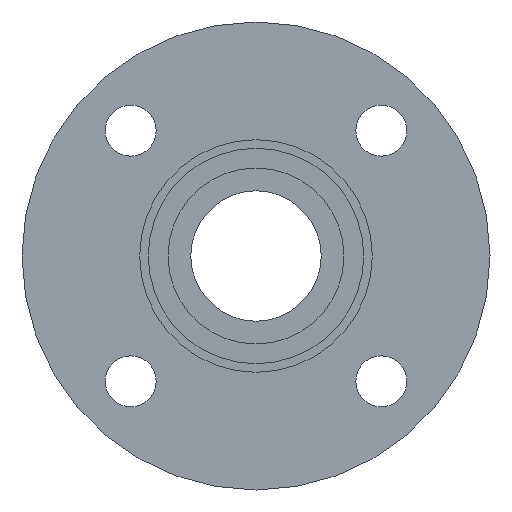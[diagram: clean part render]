
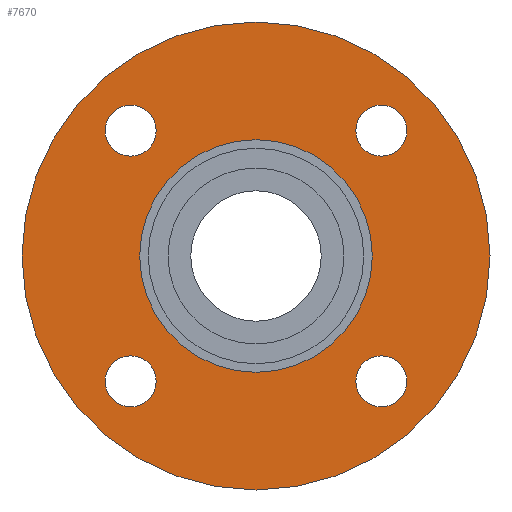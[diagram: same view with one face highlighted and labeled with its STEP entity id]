
A CAD part, left-side view. The second image highlights one B-rep face of the part: STEP entity #7670.
In plain terms, the highlighted planar face has unit normal (-1, 0, 0).
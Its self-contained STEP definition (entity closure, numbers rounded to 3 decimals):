
#7670=ADVANCED_FACE('',(#13848,#13850,#13852,#13854,#13856,#13858),#13860,.T.);
#13848=FACE_BOUND('',#13849,.T.);
#13849=EDGE_LOOP('',(#19048,#19049));
#13850=FACE_BOUND('',#13851,.T.);
#13851=EDGE_LOOP('',(#19050));
#13852=FACE_BOUND('',#13853,.T.);
#13853=EDGE_LOOP('',(#19051));
#13854=FACE_BOUND('',#13855,.T.);
#13855=EDGE_LOOP('',(#19052));
#13856=FACE_BOUND('',#13857,.T.);
#13857=EDGE_LOOP('',(#19053,#19054));
#13858=FACE_BOUND('',#13859,.T.);
#13859=EDGE_LOOP('',(#19055));
#13860=PLANE('',#13861);
#13861=AXIS2_PLACEMENT_3D('',#13862,#13863,#13864);
#13862=CARTESIAN_POINT('',(15436.544,2909.792,0.));
#13863=DIRECTION('',(-1.,0.,0.));
#13864=DIRECTION('',(0.,0.,1.));
#19048=ORIENTED_EDGE('',*,*,#21643,.F.);
#19049=ORIENTED_EDGE('',*,*,#21644,.F.);
#19050=ORIENTED_EDGE('',*,*,#21628,.T.);
#19051=ORIENTED_EDGE('',*,*,#21634,.T.);
#19052=ORIENTED_EDGE('',*,*,#21638,.T.);
#19053=ORIENTED_EDGE('',*,*,#21640,.T.);
#19054=ORIENTED_EDGE('',*,*,#21639,.T.);
#19055=ORIENTED_EDGE('',*,*,#21624,.T.);
#21624=EDGE_CURVE('',#25768,#25768,#25769,.T.);
#21628=EDGE_CURVE('',#25776,#25776,#25777,.T.);
#21634=EDGE_CURVE('',#25788,#25788,#25789,.T.);
#21638=EDGE_CURVE('',#25796,#25796,#25797,.T.);
#21639=EDGE_CURVE('',#25798,#25799,#25800,.T.);
#21640=EDGE_CURVE('',#25799,#25798,#25801,.T.);
#21643=EDGE_CURVE('',#25806,#25807,#25808,.T.);
#21644=EDGE_CURVE('',#25807,#25806,#25809,.T.);
#25768=VERTEX_POINT('',#34870);
#25769=CIRCLE('',#34871,9.);
#25776=VERTEX_POINT('',#34890);
#25777=CIRCLE('',#34891,9.);
#25788=VERTEX_POINT('',#34920);
#25789=CIRCLE('',#34921,9.);
#25796=VERTEX_POINT('',#34940);
#25797=CIRCLE('',#34941,9.);
#25798=VERTEX_POINT('',#34945);
#25799=VERTEX_POINT('',#34946);
#25800=CIRCLE('',#34947,41.);
#25801=CIRCLE('',#34951,41.);
#25806=VERTEX_POINT('',#34965);
#25807=VERTEX_POINT('',#34966);
#25808=CIRCLE('',#34967,82.5);
#25809=CIRCLE('',#34971,82.5);
#34870=CARTESIAN_POINT('',(15436.544,2862.486,-44.194));
#34871=AXIS2_PLACEMENT_3D('',#34872,#34873,#34874);
#34872=CARTESIAN_POINT('',(15436.544,2871.486,-44.194));
#34873=DIRECTION('',(1.,0.,0.));
#34874=DIRECTION('',(0.,-1.,0.));
#34890=CARTESIAN_POINT('',(15436.544,2774.097,-44.194));
#34891=AXIS2_PLACEMENT_3D('',#34892,#34893,#34894);
#34892=CARTESIAN_POINT('',(15436.544,2783.097,-44.194));
#34893=DIRECTION('',(1.,0.,0.));
#34894=DIRECTION('',(0.,-1.,0.));
#34920=CARTESIAN_POINT('',(15436.544,2774.097,44.194));
#34921=AXIS2_PLACEMENT_3D('',#34922,#34923,#34924);
#34922=CARTESIAN_POINT('',(15436.544,2783.097,44.194));
#34923=DIRECTION('',(1.,0.,0.));
#34924=DIRECTION('',(0.,-1.,0.));
#34940=CARTESIAN_POINT('',(15436.544,2862.486,44.194));
#34941=AXIS2_PLACEMENT_3D('',#34942,#34943,#34944);
#34942=CARTESIAN_POINT('',(15436.544,2871.486,44.194));
#34943=DIRECTION('',(1.,0.,0.));
#34944=DIRECTION('',(0.,-1.,0.));
#34945=CARTESIAN_POINT('',(15436.544,2786.292,0.));
#34946=CARTESIAN_POINT('',(15436.544,2868.292,0.));
#34947=AXIS2_PLACEMENT_3D('',#34948,#34949,#34950);
#34948=CARTESIAN_POINT('',(15436.544,2827.292,0.));
#34949=DIRECTION('',(1.,0.,0.));
#34950=DIRECTION('',(0.,-1.,0.));
#34951=AXIS2_PLACEMENT_3D('',#34952,#34953,#34954);
#34952=CARTESIAN_POINT('',(15436.544,2827.292,0.));
#34953=DIRECTION('',(1.,0.,0.));
#34954=DIRECTION('',(0.,1.,0.));
#34965=CARTESIAN_POINT('',(15436.544,2744.792,0.));
#34966=CARTESIAN_POINT('',(15436.544,2909.792,0.));
#34967=AXIS2_PLACEMENT_3D('',#34968,#34969,#34970);
#34968=CARTESIAN_POINT('',(15436.544,2827.292,0.));
#34969=DIRECTION('',(1.,0.,0.));
#34970=DIRECTION('',(0.,-1.,0.));
#34971=AXIS2_PLACEMENT_3D('',#34972,#34973,#34974);
#34972=CARTESIAN_POINT('',(15436.544,2827.292,0.));
#34973=DIRECTION('',(1.,0.,0.));
#34974=DIRECTION('',(0.,1.,0.));
